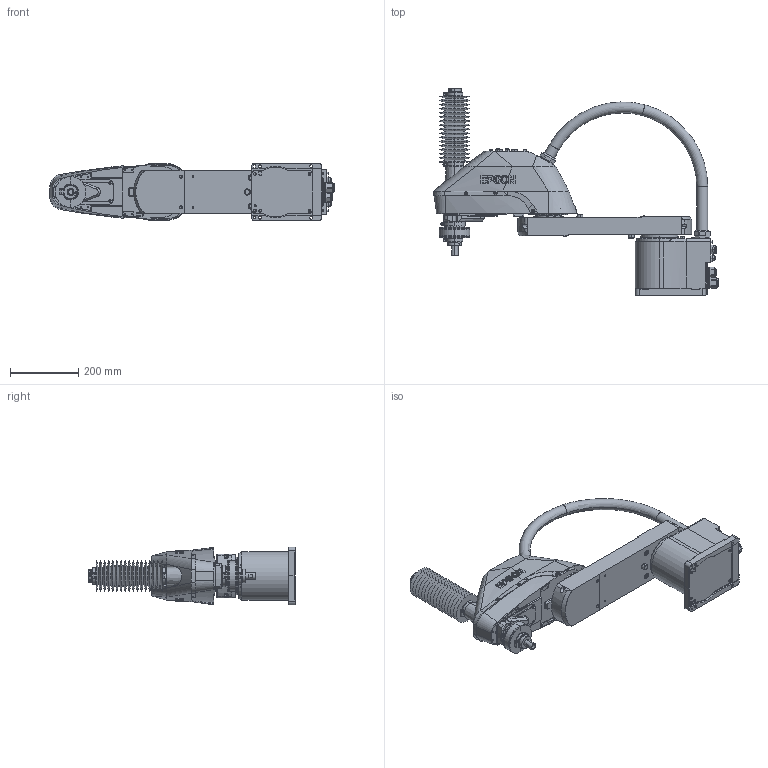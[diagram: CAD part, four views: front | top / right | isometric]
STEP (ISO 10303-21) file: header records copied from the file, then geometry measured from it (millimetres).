
FILE_DESCRIPTION (( 'STEP AP214' ), '1' );
FILE_NAME ('LS8-x602C.STEP', '2026-07-16T17:18:07', ( '' ), ( '' ), 'SwSTEP 2.0', 'SolidWorks 2020', '' );
FILE_SCHEMA (( 'AUTOMOTIVE_DESIGN' ));
Length unit declared in the file: millimetre
Products named in the file (7): LS8-CX02C_BOX__1; LS8-CX02C_600__HOUSING; LS8-C_BELLOWS1_1; LS8-CX02X_600__ARM1; LS8-CX02C_Z_AXIS_1; LS8-x602C; LS8-C_BELLOWS2_1
Assembly tree (6 placements, depth 2):
  LS8-x602C
    LS8-CX02C_BOX__1
    LS8-CX02X_600__ARM1
    LS8-CX02C_600__HOUSING
    LS8-CX02C_Z_AXIS_1
    LS8-C_BELLOWS1_1
    LS8-C_BELLOWS2_1
Bounding box: 833.25 x 607.5 x 169 mm (x, y, z)
Volume: 8983728.1 mm3; surface area: 1141249.8 mm2
Topology: 5 solids, 6 shells, 2789 faces, 7069 edges, 4556 vertices
Faces by surface type: cylinder 1135, plane 1066, cone 348, torus 119, bspline 61, sphere 60
Entity records: 118506 total; most frequent: CARTESIAN_POINT 45620, ORIENTED_EDGE 14100, DIRECTION 10264, EDGE_CURVE 7052, VERTEX_POINT 4556, AXIS2_PLACEMENT_3D 4265, B_SPLINE_CURVE_WITH_KNOTS 3782, EDGE_LOOP 3109
